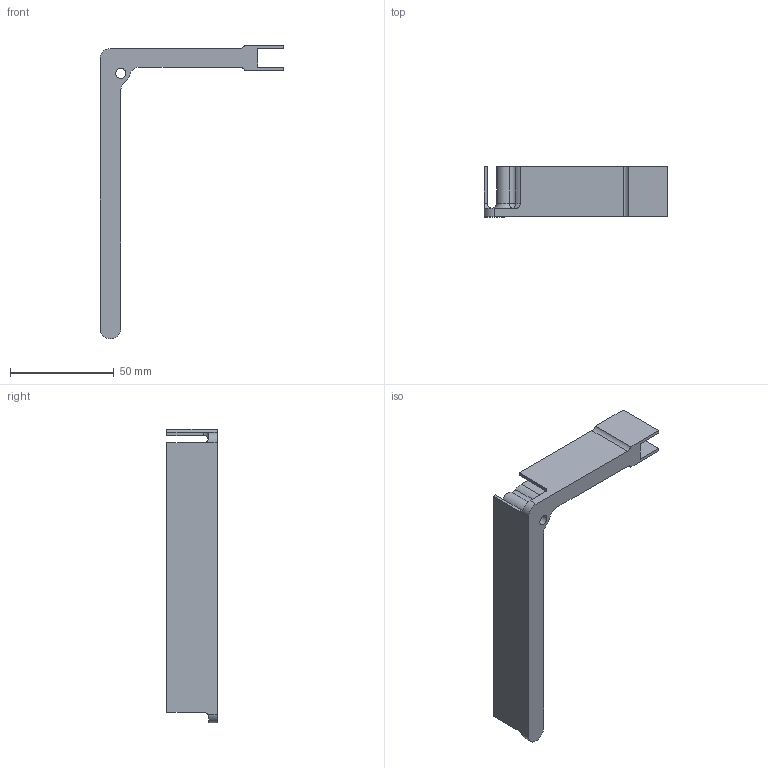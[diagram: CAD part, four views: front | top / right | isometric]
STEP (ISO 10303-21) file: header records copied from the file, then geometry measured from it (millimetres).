
FILE_DESCRIPTION (( 'STEP AP203' ), '1' );
FILE_NAME ('Part_A.STEP', '2026-07-29T21:14:51', ( '' ), ( '' ), 'SwSTEP 2.0', 'SolidWorks 2024', '' );
FILE_SCHEMA (( 'CONFIG_CONTROL_DESIGN' ));
Length unit declared in the file: inch
Products named in the file (1): Part_A
Bounding box: 88.8 x 24.29 x 141.62 mm (x, y, z)
Volume: 22371.5 mm3; surface area: 22709.7 mm2
Topology: 1 solids, 1 shells, 54 faces, 143 edges, 90 vertices
Faces by surface type: plane 25, cylinder 23, sphere 3, torus 3
Entity records: 1774 total; most frequent: CARTESIAN_POINT 345, DIRECTION 289, ORIENTED_EDGE 282, EDGE_CURVE 141, AXIS2_PLACEMENT_3D 101, VERTEX_POINT 89, VECTOR 87, LINE 87
